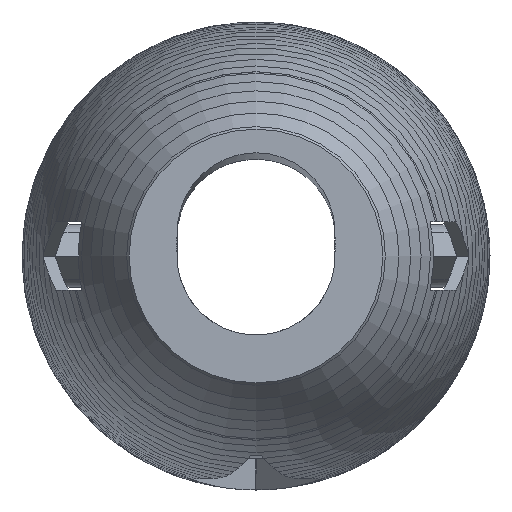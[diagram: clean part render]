
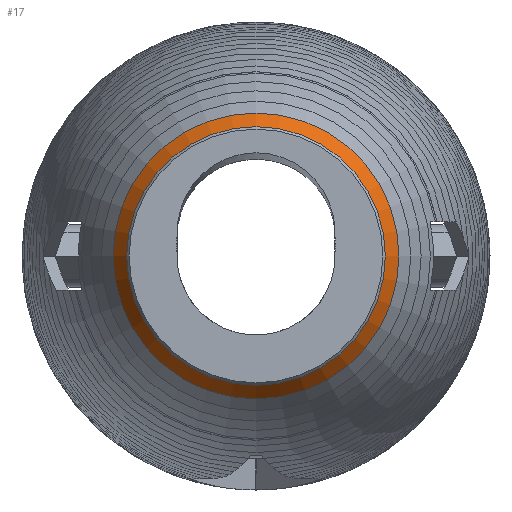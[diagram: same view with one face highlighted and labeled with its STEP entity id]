
A CAD part, left-side view. The second image highlights one B-rep face of the part: STEP entity #17.
In plain terms, the highlighted conical face has half-angle 33.762 degrees and reference radius 12.437 mm.
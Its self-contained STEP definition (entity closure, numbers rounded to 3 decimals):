
#17 = ADVANCED_FACE('',(#18),#32,.T.);
#18 = FACE_BOUND('',#19,.T.);
#19 = EDGE_LOOP('',(#20,#50,#76,#77));
#20 = ORIENTED_EDGE('',*,*,#21,.F.);
#21 = EDGE_CURVE('',#22,#24,#26,.T.);
#22 = VERTEX_POINT('',#23);
#23 = CARTESIAN_POINT('',(7.833,12.437,0.));
#24 = VERTEX_POINT('',#25);
#25 = CARTESIAN_POINT('',(9.792,13.746,0.));
#26 = SEAM_CURVE('',#27,(#31,#43),.PCURVE_S1.);
#27 = LINE('',#28,#29);
#28 = CARTESIAN_POINT('',(7.833,12.437,0.));
#29 = VECTOR('',#30,1.);
#30 = DIRECTION('',(0.831,0.556,0.));
#31 = PCURVE('',#32,#37);
#32 = CONICAL_SURFACE('',#33,12.437,0.589);
#33 = AXIS2_PLACEMENT_3D('',#34,#35,#36);
#34 = CARTESIAN_POINT('',(7.833,0.,0.));
#35 = DIRECTION('',(1.,0.,0.));
#36 = DIRECTION('',(-0.,1.,0.));
#37 = DEFINITIONAL_REPRESENTATION('',(#38),#42);
#38 = LINE('',#39,#40);
#39 = CARTESIAN_POINT('',(0.,0.));
#40 = VECTOR('',#41,1.);
#41 = DIRECTION('',(0.,1.));
#42 = ( GEOMETRIC_REPRESENTATION_CONTEXT(2) 
PARAMETRIC_REPRESENTATION_CONTEXT() REPRESENTATION_CONTEXT('2D SPACE',''
  ) );
#43 = PCURVE('',#32,#44);
#44 = DEFINITIONAL_REPRESENTATION('',(#45),#49);
#45 = LINE('',#46,#47);
#46 = CARTESIAN_POINT('',(6.283,0.));
#47 = VECTOR('',#48,1.);
#48 = DIRECTION('',(0.,1.));
#49 = ( GEOMETRIC_REPRESENTATION_CONTEXT(2) 
PARAMETRIC_REPRESENTATION_CONTEXT() REPRESENTATION_CONTEXT('2D SPACE',''
  ) );
#50 = ORIENTED_EDGE('',*,*,#51,.T.);
#51 = EDGE_CURVE('',#22,#22,#52,.T.);
#52 = SURFACE_CURVE('',#53,(#58,#65),.PCURVE_S1.);
#53 = CIRCLE('',#54,12.437);
#54 = AXIS2_PLACEMENT_3D('',#55,#56,#57);
#55 = CARTESIAN_POINT('',(7.833,0.,0.));
#56 = DIRECTION('',(1.,0.,0.));
#57 = DIRECTION('',(-0.,1.,0.));
#58 = PCURVE('',#32,#59);
#59 = DEFINITIONAL_REPRESENTATION('',(#60),#64);
#60 = LINE('',#61,#62);
#61 = CARTESIAN_POINT('',(0.,0.));
#62 = VECTOR('',#63,1.);
#63 = DIRECTION('',(1.,0.));
#64 = ( GEOMETRIC_REPRESENTATION_CONTEXT(2) 
PARAMETRIC_REPRESENTATION_CONTEXT() REPRESENTATION_CONTEXT('2D SPACE',''
  ) );
#65 = PCURVE('',#66,#71);
#66 = CONICAL_SURFACE('',#67,12.193,0.632);
#67 = AXIS2_PLACEMENT_3D('',#68,#69,#70);
#68 = CARTESIAN_POINT('',(7.5,0.,0.));
#69 = DIRECTION('',(1.,0.,0.));
#70 = DIRECTION('',(-0.,1.,0.));
#71 = DEFINITIONAL_REPRESENTATION('',(#72),#75);
#72 = B_SPLINE_CURVE_WITH_KNOTS('',1,(#73,#74),.UNSPECIFIED.,.F.,.F.,(2,
    2),(0.,6.283),.PIECEWISE_BEZIER_KNOTS.);
#73 = CARTESIAN_POINT('',(0.,0.333));
#74 = CARTESIAN_POINT('',(6.283,0.333));
#75 = ( GEOMETRIC_REPRESENTATION_CONTEXT(2) 
PARAMETRIC_REPRESENTATION_CONTEXT() REPRESENTATION_CONTEXT('2D SPACE',''
  ) );
#76 = ORIENTED_EDGE('',*,*,#21,.T.);
#77 = ORIENTED_EDGE('',*,*,#78,.F.);
#78 = EDGE_CURVE('',#24,#24,#79,.T.);
#79 = SURFACE_CURVE('',#80,(#85,#92),.PCURVE_S1.);
#80 = CIRCLE('',#81,13.746);
#81 = AXIS2_PLACEMENT_3D('',#82,#83,#84);
#82 = CARTESIAN_POINT('',(9.792,0.,0.));
#83 = DIRECTION('',(1.,0.,0.));
#84 = DIRECTION('',(-0.,1.,0.));
#85 = PCURVE('',#32,#86);
#86 = DEFINITIONAL_REPRESENTATION('',(#87),#91);
#87 = LINE('',#88,#89);
#88 = CARTESIAN_POINT('',(0.,1.958));
#89 = VECTOR('',#90,1.);
#90 = DIRECTION('',(1.,0.));
#91 = ( GEOMETRIC_REPRESENTATION_CONTEXT(2) 
PARAMETRIC_REPRESENTATION_CONTEXT() REPRESENTATION_CONTEXT('2D SPACE',''
  ) );
#92 = PCURVE('',#93,#98);
#93 = CONICAL_SURFACE('',#94,13.746,0.526);
#94 = AXIS2_PLACEMENT_3D('',#95,#96,#97);
#95 = CARTESIAN_POINT('',(9.792,0.,0.));
#96 = DIRECTION('',(1.,0.,0.));
#97 = DIRECTION('',(-0.,1.,0.));
#98 = DEFINITIONAL_REPRESENTATION('',(#99),#103);
#99 = LINE('',#100,#101);
#100 = CARTESIAN_POINT('',(0.,0.));
#101 = VECTOR('',#102,1.);
#102 = DIRECTION('',(1.,0.));
#103 = ( GEOMETRIC_REPRESENTATION_CONTEXT(2) 
PARAMETRIC_REPRESENTATION_CONTEXT() REPRESENTATION_CONTEXT('2D SPACE',''
  ) );
